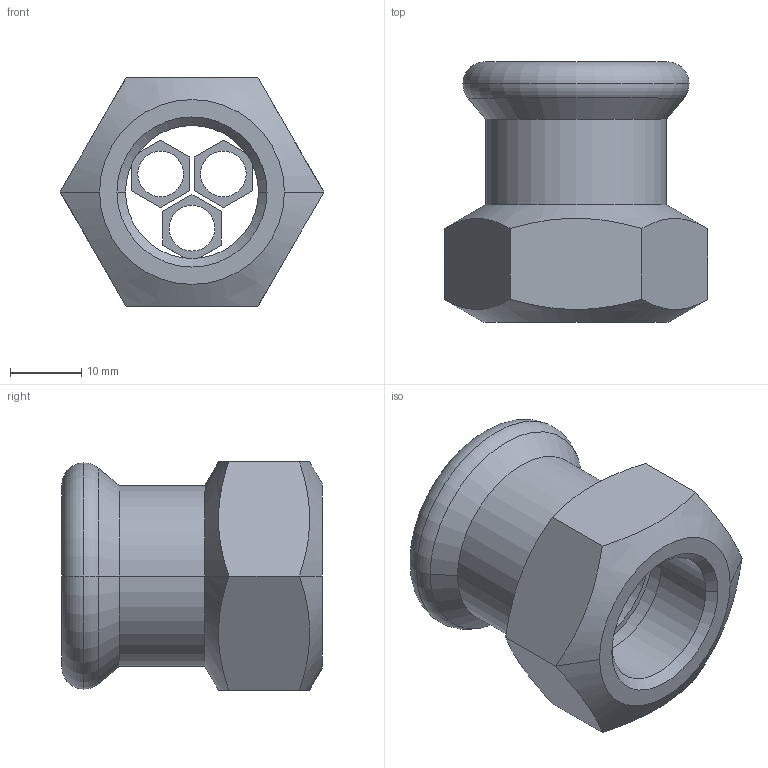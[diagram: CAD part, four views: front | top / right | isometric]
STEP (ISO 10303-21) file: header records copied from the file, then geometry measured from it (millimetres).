
FILE_DESCRIPTION(('OneSpaceDesigner STEP Export'),'2;1');
FILE_NAME('R2702 22xRp1-2.stp','2010-06-08T14:01:50',(''),(''),'OneSpace Designer STEP processor for AP214 (Solid Model)','OneSpace Modeling 15.00A 14-Mar-2007 (C) CoCreate Software GmbH','');
FILE_SCHEMA(('AUTOMOTIVE_DESIGN { 1 0 10303 214 1 1 1 1 }'));
Length unit declared in the file: millimetre
Products named in the file (2): R2702_22xRp1-2
Assembly tree (1 placements, depth 2):
  R2702_22xRp1-2
    R2702_22xRp1-2
Bounding box: 36.95 x 36.5 x 32 mm (x, y, z)
Volume: 12664.5 mm3; surface area: 7507.6 mm2
Topology: 1 solids, 1 shells, 74 faces, 179 edges, 112 vertices
Faces by surface type: plane 37, cylinder 21, cone 12, torus 4
Entity records: 2858 total; most frequent: CARTESIAN_POINT 1219, ORIENTED_EDGE 358, DIRECTION 285, EDGE_CURVE 179, VERTEX_POINT 112, VECTOR 105, LINE 105, AXIS2_PLACEMENT_3D 90
